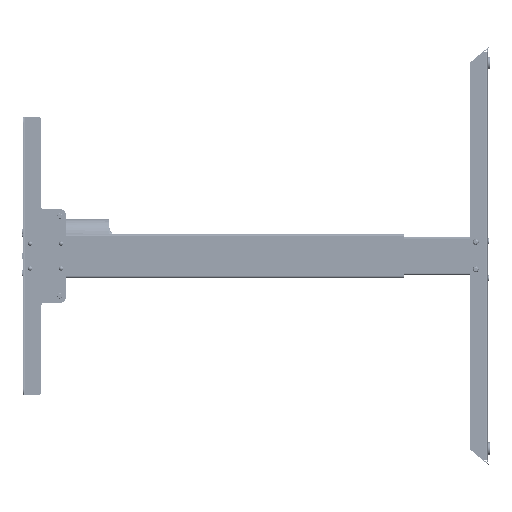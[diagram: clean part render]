
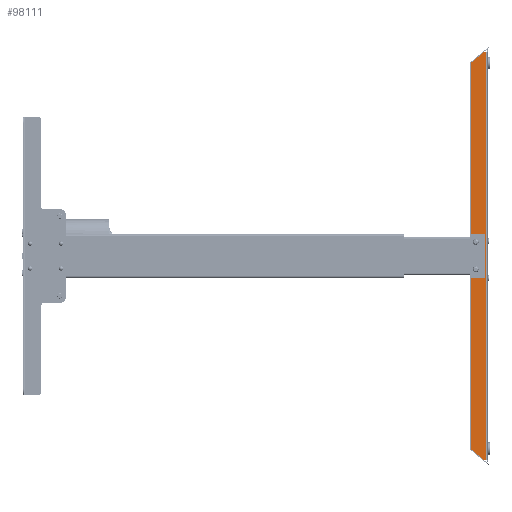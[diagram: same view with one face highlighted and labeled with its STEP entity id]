
A CAD part, left-side view. The second image highlights one B-rep face of the part: STEP entity #98111.
In plain terms, the highlighted planar face has unit normal (-1, 0, 0).
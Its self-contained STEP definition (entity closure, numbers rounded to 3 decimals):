
#99 = CARTESIAN_POINT ( 'NONE',  ( -21.5, 0., 333.5 ) ) ;
#3477 = AXIS2_PLACEMENT_3D ( 'NONE', #140630, #72927, #87463 ) ;
#5134 = DIRECTION ( 'NONE',  ( 0., 0., 1. ) ) ;
#5885 = DIRECTION ( 'NONE',  ( -1., 0., 0. ) ) ;
#6257 = ORIENTED_EDGE ( 'NONE', *, *, #65886, .T. ) ;
#6506 = EDGE_CURVE ( 'NONE', #87814, #78599, #72404, .T. ) ;
#6734 = FACE_BOUND ( 'NONE', #13866, .T. ) ;
#8359 = AXIS2_PLACEMENT_3D ( 'NONE', #84556, #57132, #149712 ) ;
#10270 = AXIS2_PLACEMENT_3D ( 'NONE', #154394, #78936, #51496 ) ;
#11664 = CARTESIAN_POINT ( 'NONE',  ( -21.5, 5.325, 329.032 ) ) ;
#11752 = VECTOR ( 'NONE', #157038, 1000. ) ;
#12411 = CARTESIAN_POINT ( 'NONE',  ( -21.5, 4.039, -327.5 ) ) ;
#13787 = LINE ( 'NONE', #99, #64171 ) ;
#13866 = EDGE_LOOP ( 'NONE', ( #28195 ) ) ;
#17030 = CARTESIAN_POINT ( 'NONE',  ( -21.5, 0., 333.5 ) ) ;
#18978 = DIRECTION ( 'NONE',  ( 0., 0., 1. ) ) ;
#19373 = CARTESIAN_POINT ( 'NONE',  ( -21.5, 1., 333.5 ) ) ;
#23162 = LINE ( 'NONE', #24025, #149127 ) ;
#24025 = CARTESIAN_POINT ( 'NONE',  ( -21.5, 328.433, -57.912 ) ) ;
#24738 = EDGE_CURVE ( 'NONE', #109932, #24796, #79435, .T. ) ;
#24796 = VERTEX_POINT ( 'NONE', #11664 ) ;
#24913 = DIRECTION ( 'NONE',  ( 0., 0.766, -0.643 ) ) ;
#28195 = ORIENTED_EDGE ( 'NONE', *, *, #37987, .T. ) ;
#30746 = FACE_OUTER_BOUND ( 'NONE', #51548, .T. ) ;
#31122 = VERTEX_POINT ( 'NONE', #44291 ) ;
#35450 = CARTESIAN_POINT ( 'NONE',  ( -21.5, 26., -310.284 ) ) ;
#35637 = LINE ( 'NONE', #19373, #118332 ) ;
#37987 = EDGE_CURVE ( 'NONE', #78453, #78453, #152554, .T. ) ;
#40268 = CARTESIAN_POINT ( 'NONE',  ( -21.5, 0., -329.5 ) ) ;
#40514 = CARTESIAN_POINT ( 'NONE',  ( -21.5, 24.928, -312.583 ) ) ;
#41423 = EDGE_CURVE ( 'NONE', #109932, #50935, #110924, .T. ) ;
#44291 = CARTESIAN_POINT ( 'NONE',  ( -21.5, 1., -329.5 ) ) ;
#45555 = VECTOR ( 'NONE', #92551, 1000. ) ;
#47611 = EDGE_CURVE ( 'NONE', #50935, #31122, #35637, .T. ) ;
#47936 = ORIENTED_EDGE ( 'NONE', *, *, #47611, .F. ) ;
#48530 = CARTESIAN_POINT ( 'NONE',  ( -21.5, 4.039, -329.5 ) ) ;
#49252 = DIRECTION ( 'NONE',  ( -1., 0., 0. ) ) ;
#50935 = VERTEX_POINT ( 'NONE', #68778 ) ;
#51496 = DIRECTION ( 'NONE',  ( 0., 0., -1. ) ) ;
#51548 = EDGE_LOOP ( 'NONE', ( #97711, #125326, #6257, #74235, #148997, #93120, #54469, #66793, #78534, #47936 ) ) ;
#52681 = CIRCLE ( 'NONE', #3477, 2.5 ) ;
#54469 = ORIENTED_EDGE ( 'NONE', *, *, #146040, .F. ) ;
#55809 = CARTESIAN_POINT ( 'NONE',  ( -21.5, 5.325, -329.032 ) ) ;
#57132 = DIRECTION ( 'NONE',  ( -1., 0., 0. ) ) ;
#63591 = CARTESIAN_POINT ( 'NONE',  ( -21.5, 26., 333.5 ) ) ;
#64171 = VECTOR ( 'NONE', #24913, 1000. ) ;
#65886 = EDGE_CURVE ( 'NONE', #24796, #87814, #13787, .T. ) ;
#66793 = ORIENTED_EDGE ( 'NONE', *, *, #167565, .T. ) ;
#68778 = CARTESIAN_POINT ( 'NONE',  ( -21.5, 1., 329.5 ) ) ;
#70237 = DIRECTION ( 'NONE',  ( -1., 0., 0. ) ) ;
#72404 = CIRCLE ( 'NONE', #162729, 3. ) ;
#72927 = DIRECTION ( 'NONE',  ( 1., 0., 0. ) ) ;
#74235 = ORIENTED_EDGE ( 'NONE', *, *, #6506, .T. ) ;
#78453 = VERTEX_POINT ( 'NONE', #156452 ) ;
#78534 = ORIENTED_EDGE ( 'NONE', *, *, #90761, .F. ) ;
#78599 = VERTEX_POINT ( 'NONE', #102648 ) ;
#78936 = DIRECTION ( 'NONE',  ( 1., 0., 0. ) ) ;
#79170 = VERTEX_POINT ( 'NONE', #40514 ) ;
#79435 = CIRCLE ( 'NONE', #8359, 2. ) ;
#84477 = VERTEX_POINT ( 'NONE', #35450 ) ;
#84556 = CARTESIAN_POINT ( 'NONE',  ( -21.5, 4.039, 327.5 ) ) ;
#87463 = DIRECTION ( 'NONE',  ( 0., 0., -1. ) ) ;
#87814 = VERTEX_POINT ( 'NONE', #153246 ) ;
#87831 = DIRECTION ( 'NONE',  ( 0., 0., 1. ) ) ;
#90031 = CARTESIAN_POINT ( 'NONE',  ( -21.5, 18., -24. ) ) ;
#90037 = CARTESIAN_POINT ( 'NONE',  ( -21.5, 4.039, 329.5 ) ) ;
#90761 = EDGE_CURVE ( 'NONE', #31122, #114644, #150493, .T. ) ;
#92551 = DIRECTION ( 'NONE',  ( 0., 1., 0. ) ) ;
#92598 = VERTEX_POINT ( 'NONE', #90031 ) ;
#93120 = ORIENTED_EDGE ( 'NONE', *, *, #96466, .T. ) ;
#96466 = EDGE_CURVE ( 'NONE', #84477, #79170, #99266, .T. ) ;
#97711 = ORIENTED_EDGE ( 'NONE', *, *, #41423, .F. ) ;
#98111 = ADVANCED_FACE ( 'NONE', ( #6734, #160208, #30746 ), #123301, .T. ) ;
#98169 = VECTOR ( 'NONE', #136664, 1000. ) ;
#99266 = CIRCLE ( 'NONE', #159561, 3. ) ;
#102648 = CARTESIAN_POINT ( 'NONE',  ( -21.5, 26., 310.284 ) ) ;
#106007 = AXIS2_PLACEMENT_3D ( 'NONE', #12411, #49252, #87831 ) ;
#109932 = VERTEX_POINT ( 'NONE', #90037 ) ;
#110924 = LINE ( 'NONE', #123790, #98169 ) ;
#111281 = DIRECTION ( 'NONE',  ( 0., 0., 1. ) ) ;
#111416 = CIRCLE ( 'NONE', #106007, 2. ) ;
#111704 = EDGE_CURVE ( 'NONE', #92598, #92598, #52681, .T. ) ;
#112258 = EDGE_CURVE ( 'NONE', #78599, #84477, #129634, .T. ) ;
#112384 = DIRECTION ( 'NONE',  ( -1., 0., 0. ) ) ;
#114055 = DIRECTION ( 'NONE',  ( 0., 0.766, 0.643 ) ) ;
#114644 = VERTEX_POINT ( 'NONE', #48530 ) ;
#118332 = VECTOR ( 'NONE', #165958, 1000. ) ;
#122567 = CARTESIAN_POINT ( 'NONE',  ( -21.5, 23., 310.284 ) ) ;
#123301 = PLANE ( 'NONE',  #159550 ) ;
#123790 = CARTESIAN_POINT ( 'NONE',  ( -21.5, 26., 329.5 ) ) ;
#125326 = ORIENTED_EDGE ( 'NONE', *, *, #24738, .T. ) ;
#129634 = LINE ( 'NONE', #63591, #11752 ) ;
#136453 = CARTESIAN_POINT ( 'NONE',  ( -21.5, 23., -310.284 ) ) ;
#136664 = DIRECTION ( 'NONE',  ( 0., -1., 0. ) ) ;
#140630 = CARTESIAN_POINT ( 'NONE',  ( -21.5, 18., -21.5 ) ) ;
#146040 = EDGE_CURVE ( 'NONE', #168344, #79170, #23162, .T. ) ;
#148997 = ORIENTED_EDGE ( 'NONE', *, *, #112258, .T. ) ;
#149127 = VECTOR ( 'NONE', #114055, 1000. ) ;
#149712 = DIRECTION ( 'NONE',  ( 0., 0., 1. ) ) ;
#150493 = LINE ( 'NONE', #40268, #45555 ) ;
#152554 = CIRCLE ( 'NONE', #10270, 2.5 ) ;
#153246 = CARTESIAN_POINT ( 'NONE',  ( -21.5, 24.928, 312.583 ) ) ;
#154394 = CARTESIAN_POINT ( 'NONE',  ( -21.5, 18., 22.5 ) ) ;
#154880 = EDGE_LOOP ( 'NONE', ( #168151 ) ) ;
#156452 = CARTESIAN_POINT ( 'NONE',  ( -21.5, 18., 20. ) ) ;
#157038 = DIRECTION ( 'NONE',  ( 0., 0., -1. ) ) ;
#159550 = AXIS2_PLACEMENT_3D ( 'NONE', #17030, #5885, #111281 ) ;
#159561 = AXIS2_PLACEMENT_3D ( 'NONE', #136453, #112384, #18978 ) ;
#160208 = FACE_BOUND ( 'NONE', #154880, .T. ) ;
#162729 = AXIS2_PLACEMENT_3D ( 'NONE', #122567, #70237, #5134 ) ;
#165958 = DIRECTION ( 'NONE',  ( 0., 0., -1. ) ) ;
#167565 = EDGE_CURVE ( 'NONE', #168344, #114644, #111416, .T. ) ;
#168151 = ORIENTED_EDGE ( 'NONE', *, *, #111704, .T. ) ;
#168344 = VERTEX_POINT ( 'NONE', #55809 ) ;
